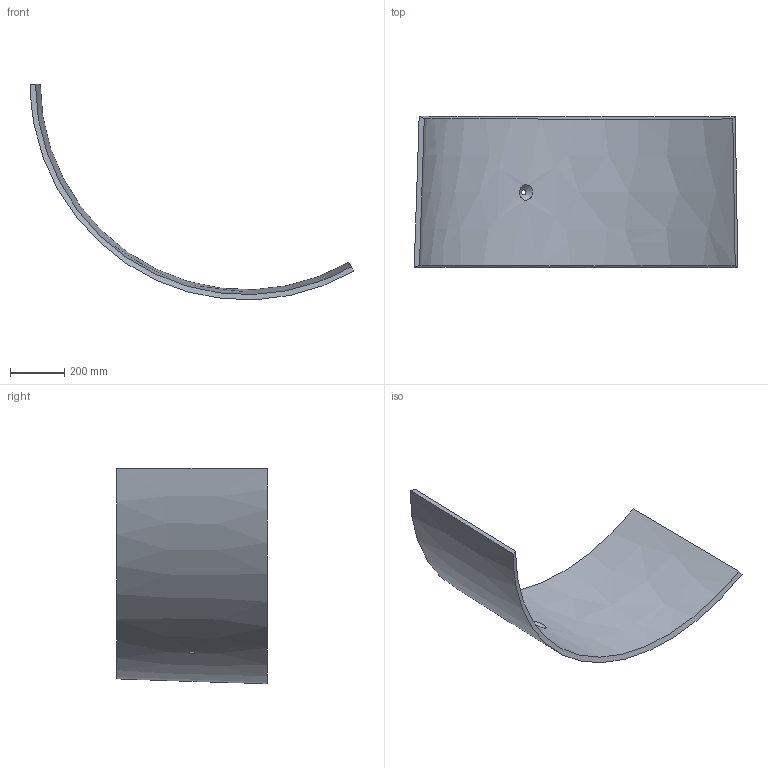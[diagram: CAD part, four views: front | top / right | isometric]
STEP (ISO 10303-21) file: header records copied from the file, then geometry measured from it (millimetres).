
FILE_DESCRIPTION (( 'STEP AP214' ), '1' );
FILE_NAME ('P3.STEP', '2025-01-09T19:43:26', ( '' ), ( '' ), 'SwSTEP 2.0', 'SolidWorks 2024', '' );
FILE_SCHEMA (( 'AUTOMOTIVE_DESIGN' ));
Length unit declared in the file: inch
Products named in the file (1): P3
Bounding box: 1191.58 x 555.62 x 792.85 mm (x, y, z)
Volume: 16978757.7 mm3; surface area: 1867510 mm2
Topology: 1 solids, 1 shells, 8 faces, 19 edges, 13 vertices
Faces by surface type: bspline 7, cylinder 1
Full cylindrical faces by diameter (mm): 19.431 x1
Entity records: 2360 total; most frequent: CARTESIAN_POINT 2212, ORIENTED_EDGE 30, EDGE_CURVE 15, B_SPLINE_CURVE_WITH_KNOTS 15, EDGE_LOOP 12, VERTEX_POINT 11, FACE_OUTER_BOUND 10, ADVANCED_FACE 8
